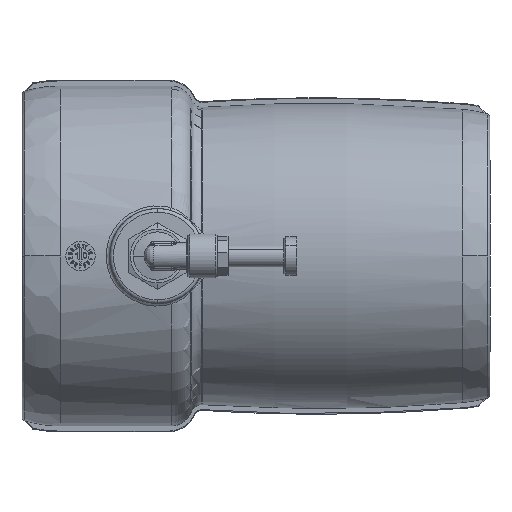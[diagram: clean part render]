
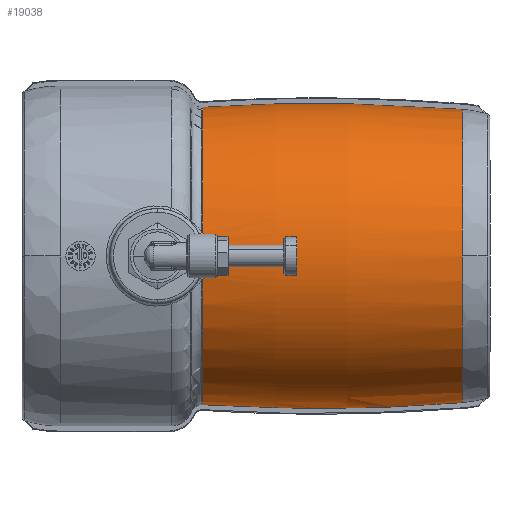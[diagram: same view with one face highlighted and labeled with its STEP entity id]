
A CAD part, front view. The second image highlights one B-rep face of the part: STEP entity #19038.
In plain terms, the highlighted toroidal (fillet/blend) face has major radius 438.083 mm and minor radius 479.833 mm.
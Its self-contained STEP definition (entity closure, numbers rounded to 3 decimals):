
#7799 = CARTESIAN_POINT ( 'NONE',  ( 39.372, -40.132, 0. ) ) ;
#7850 = CARTESIAN_POINT ( 'NONE',  ( 39.372, -1.25, 40.113 ) ) ;
#8227 = DIRECTION ( 'NONE',  ( 0., 0., -1. ) ) ;
#8228 = DIRECTION ( 'NONE',  ( -1., 0., 0. ) ) ;
#8229 = CARTESIAN_POINT ( 'NONE',  ( 39.372, 0., 0. ) ) ;
#8230 = AXIS2_PLACEMENT_3D ( 'NONE', #8229, #8228, #8227 ) ;
#8235 = CIRCLE ( 'NONE', #8230, 40.132 ) ;
#8290 = CARTESIAN_POINT ( 'NONE',  ( -31.602, -40.191, -6.468 ) ) ;
#8393 = AXIS2_PLACEMENT_3D ( 'NONE', #8421, #8420, #8419 ) ;
#8419 = DIRECTION ( 'NONE',  ( 0., 1., 0. ) ) ;
#8420 = DIRECTION ( 'NONE',  ( 1., 0., 0. ) ) ;
#8421 = CARTESIAN_POINT ( 'NONE',  ( -31.602, 0., 0. ) ) ;
#8422 = CIRCLE ( 'NONE', #8393, 40.708 ) ;
#8464 = CARTESIAN_POINT ( 'NONE',  ( -31.602, -1.25, -40.689 ) ) ;
#8472 = AXIS2_PLACEMENT_3D ( 'NONE', #8522, #8521, #8520 ) ;
#8520 = DIRECTION ( 'NONE',  ( 0., 1., 0. ) ) ;
#8521 = DIRECTION ( 'NONE',  ( 1., 0., 0. ) ) ;
#8522 = CARTESIAN_POINT ( 'NONE',  ( -31.602, 0., 0. ) ) ;
#8523 = CIRCLE ( 'NONE', #8472, 40.708 ) ;
#8555 = CARTESIAN_POINT ( 'NONE',  ( -31.602, -1.25, 40.689 ) ) ;
#8634 = CARTESIAN_POINT ( 'NONE',  ( -31.602, -40.191, 6.468 ) ) ;
#19033 = VERTEX_POINT ( 'NONE', #49332 ) ;
#19036 = EDGE_CURVE ( 'NONE', #38827, #39640, #49318, .T. ) ;
#19038 = ADVANCED_FACE ( 'NONE', ( #49324 ), #49314, .T. ) ;
#19039 = ORIENTED_EDGE ( 'NONE', *, *, #39054, .T. ) ;
#19043 = EDGE_CURVE ( 'NONE', #39709, #39136, #49361, .T. ) ;
#19052 = EDGE_CURVE ( 'NONE', #19033, #38815, #49400, .T. ) ;
#19064 = ORIENTED_EDGE ( 'NONE', *, *, #39556, .T. ) ;
#19065 = ORIENTED_EDGE ( 'NONE', *, *, #19036, .T. ) ;
#19067 = EDGE_CURVE ( 'NONE', #39480, #19033, #49513, .T. ) ;
#19068 = ORIENTED_EDGE ( 'NONE', *, *, #39431, .T. ) ;
#19069 = ORIENTED_EDGE ( 'NONE', *, *, #19043, .T. ) ;
#19075 = ORIENTED_EDGE ( 'NONE', *, *, #19067, .T. ) ;
#19091 = EDGE_LOOP ( 'NONE', ( #19095, #19039, #19065, #19064, #19069, #19068, #19075 ) ) ;
#19095 = ORIENTED_EDGE ( 'NONE', *, *, #19052, .T. ) ;
#38815 = VERTEX_POINT ( 'NONE', #7799 ) ;
#38827 = VERTEX_POINT ( 'NONE', #7850 ) ;
#39054 = EDGE_CURVE ( 'NONE', #38815, #38827, #8235, .T. ) ;
#39136 = VERTEX_POINT ( 'NONE', #8290 ) ;
#39431 = EDGE_CURVE ( 'NONE', #39136, #39480, #8422, .T. ) ;
#39480 = VERTEX_POINT ( 'NONE', #8464 ) ;
#39556 = EDGE_CURVE ( 'NONE', #39640, #39709, #8523, .T. ) ;
#39640 = VERTEX_POINT ( 'NONE', #8555 ) ;
#39709 = VERTEX_POINT ( 'NONE', #8634 ) ;
#49258 = DIRECTION ( 'NONE',  ( -1., 0., 0. ) ) ;
#49291 = DIRECTION ( 'NONE',  ( 0., 0., 1. ) ) ;
#49295 = CARTESIAN_POINT ( 'NONE',  ( -31.602, -1.25, 40.689 ) ) ;
#49297 = CARTESIAN_POINT ( 'NONE',  ( -25.671, -1.25, 41.081 ) ) ;
#49300 = CARTESIAN_POINT ( 'NONE',  ( -19.731, -1.25, 41.362 ) ) ;
#49302 = CARTESIAN_POINT ( 'NONE',  ( -10.808, -1.25, 41.619 ) ) ;
#49303 = CARTESIAN_POINT ( 'NONE',  ( -6.343, -1.25, 41.706 ) ) ;
#49304 = CARTESIAN_POINT ( 'NONE',  ( -1.129, -1.25, 41.734 ) ) ;
#49305 = CARTESIAN_POINT ( 'NONE',  ( 1.107, -1.25, 41.731 ) ) ;
#49307 = CARTESIAN_POINT ( 'NONE',  ( 2.598, -1.25, 41.725 ) ) ;
#49309 = CARTESIAN_POINT ( 'NONE',  ( 3.346, -1.25, 41.72 ) ) ;
#49311 = CARTESIAN_POINT ( 'NONE',  ( 15.887, -1.25, 41.613 ) ) ;
#49312 = CARTESIAN_POINT ( 'NONE',  ( 27.65, -1.25, 41.078 ) ) ;
#49313 = CARTESIAN_POINT ( 'NONE',  ( 39.372, -1.25, 40.113 ) ) ;
#49314 = TOROIDAL_SURFACE ( 'NONE', #49316, -438.083, 479.833 ) ;
#49316 = AXIS2_PLACEMENT_3D ( 'NONE', #49321, #49258, #49291 ) ;
#49318 = B_SPLINE_CURVE_WITH_KNOTS ( 'NONE', 3,
 ( #49313, #49312, #49311, #49309, #49307, #49305, #49304, #49303, #49302, #49300, #49297, #49295 ),
 .UNSPECIFIED., .F., .F.,
 ( 4, 2, 2, 1, 1, 2, 4 ),
 ( 0.764, 0.799, 0.802, 0.804, 0.808, 0.817, 0.835 ),
 .UNSPECIFIED. ) ;
#49321 = CARTESIAN_POINT ( 'NONE',  ( 0., 0., 0. ) ) ;
#49324 = FACE_OUTER_BOUND ( 'NONE', #19091, .T. ) ;
#49332 = CARTESIAN_POINT ( 'NONE',  ( 39.372, -1.25, -40.113 ) ) ;
#49339 = CARTESIAN_POINT ( 'NONE',  ( -29.973, -40.801, -1.13 ) ) ;
#49340 = CARTESIAN_POINT ( 'NONE',  ( -29.938, -40.815, -0.566 ) ) ;
#49341 = CARTESIAN_POINT ( 'NONE',  ( -29.937, -40.815, 0.56 ) ) ;
#49342 = CARTESIAN_POINT ( 'NONE',  ( -29.973, -40.801, 1.122 ) ) ;
#49344 = CARTESIAN_POINT ( 'NONE',  ( -30.115, -40.746, 2.246 ) ) ;
#49346 = CARTESIAN_POINT ( 'NONE',  ( -30.224, -40.704, 2.808 ) ) ;
#49348 = CARTESIAN_POINT ( 'NONE',  ( -30.647, -40.542, 4.444 ) ) ;
#49356 = CARTESIAN_POINT ( 'NONE',  ( -31.06, -40.386, 5.482 ) ) ;
#49357 = CARTESIAN_POINT ( 'NONE',  ( -31.602, -40.191, 6.468 ) ) ;
#49361 = B_SPLINE_CURVE_WITH_KNOTS ( 'NONE', 3,
 ( #49357, #49356, #49348, #49346, #49344, #49342, #49341, #49340, #49339, #49432, #49430, #49428, #49427, #49426, #49424, #49423 ),
 .UNSPECIFIED., .F., .F.,
 ( 4, 2, 2, 2, 2, 2, 2, 4 ),
 ( 0., 0.003, 0.005, 0.007, 0.008, 0.009, 0.01, 0.014 ),
 .UNSPECIFIED. ) ;
#49396 = DIRECTION ( 'NONE',  ( 0., 0., -1. ) ) ;
#49397 = DIRECTION ( 'NONE',  ( -1., 0., 0. ) ) ;
#49398 = CARTESIAN_POINT ( 'NONE',  ( 39.372, 0., 0. ) ) ;
#49400 = CIRCLE ( 'NONE', #49421, 40.132 ) ;
#49421 = AXIS2_PLACEMENT_3D ( 'NONE', #49398, #49397, #49396 ) ;
#49423 = CARTESIAN_POINT ( 'NONE',  ( -31.602, -40.191, -6.468 ) ) ;
#49424 = CARTESIAN_POINT ( 'NONE',  ( -31.06, -40.386, -5.482 ) ) ;
#49426 = CARTESIAN_POINT ( 'NONE',  ( -30.648, -40.542, -4.446 ) ) ;
#49427 = CARTESIAN_POINT ( 'NONE',  ( -30.296, -40.676, -3.089 ) ) ;
#49428 = CARTESIAN_POINT ( 'NONE',  ( -30.234, -40.7, -2.814 ) ) ;
#49430 = CARTESIAN_POINT ( 'NONE',  ( -30.127, -40.742, -2.258 ) ) ;
#49432 = CARTESIAN_POINT ( 'NONE',  ( -30.081, -40.759, -1.976 ) ) ;
#49485 = CARTESIAN_POINT ( 'NONE',  ( 39.372, -1.25, -40.113 ) ) ;
#49487 = CARTESIAN_POINT ( 'NONE',  ( 27.53, -1.25, -41.088 ) ) ;
#49489 = CARTESIAN_POINT ( 'NONE',  ( 15.646, -1.25, -41.624 ) ) ;
#49491 = CARTESIAN_POINT ( 'NONE',  ( 3.347, -1.25, -41.72 ) ) ;
#49493 = CARTESIAN_POINT ( 'NONE',  ( 2.98, -1.25, -41.722 ) ) ;
#49494 = CARTESIAN_POINT ( 'NONE',  ( 2.242, -1.25, -41.726 ) ) ;
#49495 = CARTESIAN_POINT ( 'NONE',  ( 1.134, -1.25, -41.731 ) ) ;
#49496 = CARTESIAN_POINT ( 'NONE',  ( -1.448, -1.25, -41.733 ) ) ;
#49497 = CARTESIAN_POINT ( 'NONE',  ( -3.66, -1.25, -41.72 ) ) ;
#49498 = CARTESIAN_POINT ( 'NONE',  ( -8.082, -1.25, -41.672 ) ) ;
#49499 = CARTESIAN_POINT ( 'NONE',  ( -11.028, -1.25, -41.614 ) ) ;
#49500 = CARTESIAN_POINT ( 'NONE',  ( -19.858, -1.25, -41.356 ) ) ;
#49503 = CARTESIAN_POINT ( 'NONE',  ( -25.735, -1.25, -41.076 ) ) ;
#49505 = CARTESIAN_POINT ( 'NONE',  ( -31.602, -1.25, -40.689 ) ) ;
#49513 = B_SPLINE_CURVE_WITH_KNOTS ( 'NONE', 3,
 ( #49505, #49503, #49500, #49499, #49498, #49497, #49496, #49495, #49494, #49493, #49491, #49489, #49487, #49485 ),
 .UNSPECIFIED., .F., .F.,
 ( 4, 2, 2, 1, 1, 2, 2, 4 ),
 ( 0.765, 0.783, 0.792, 0.796, 0.798, 0.799, 0.8, 0.836 ),
 .UNSPECIFIED. ) ;
